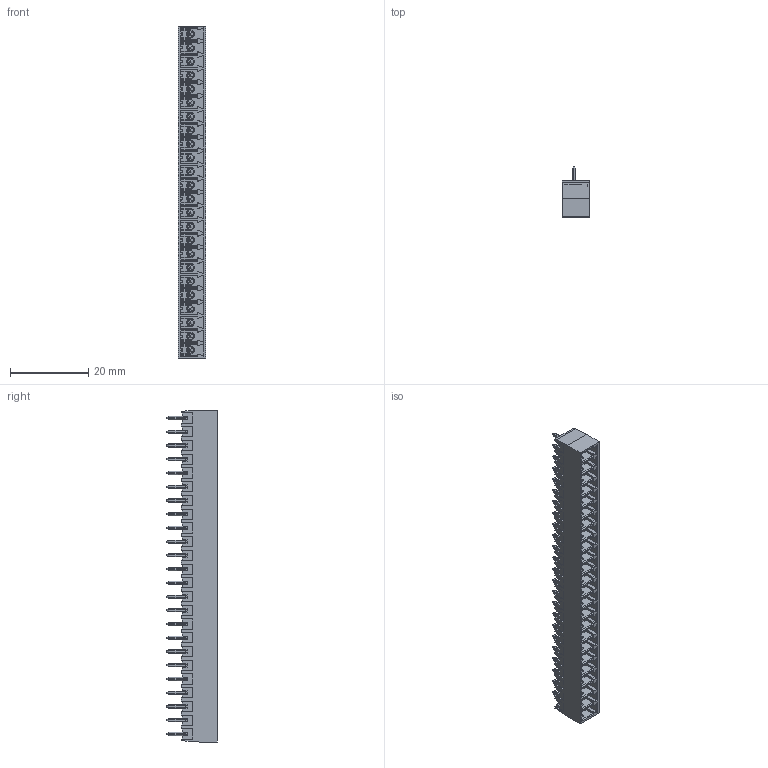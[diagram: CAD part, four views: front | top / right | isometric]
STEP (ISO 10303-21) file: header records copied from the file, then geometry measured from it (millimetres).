
FILE_DESCRIPTION (( 'STEP AP214' ), '1' );
FILE_NAME ('110-M-121-24.STEP', '2007-11-20T04:07:42', ( ' ' ), ( '' ), 'SwSTEP 2.0', 'SolidWorks 2007', '' );
FILE_SCHEMA (( 'AUTOMOTIVE_DESIGN' ));
Length unit declared in the file: millimetre
Products named in the file (1): 110-M-121-24
Bounding box: 6.9 x 12.8 x 84.6 mm (x, y, z)
Volume: 2203.4 mm3; surface area: 7768.8 mm2
Topology: 1 solids, 1 shells, 3907 faces, 12001 edges, 7712 vertices
Faces by surface type: plane 2602, cylinder 1163, cone 142
Entity records: 140454 total; most frequent: CARTESIAN_POINT 44253, ORIENTED_EDGE 24002, DIRECTION 14371, EDGE_CURVE 12001, VERTEX_POINT 7712, VECTOR 6163, LINE 6163, B_SPLINE_CURVE_WITH_KNOTS 5642
